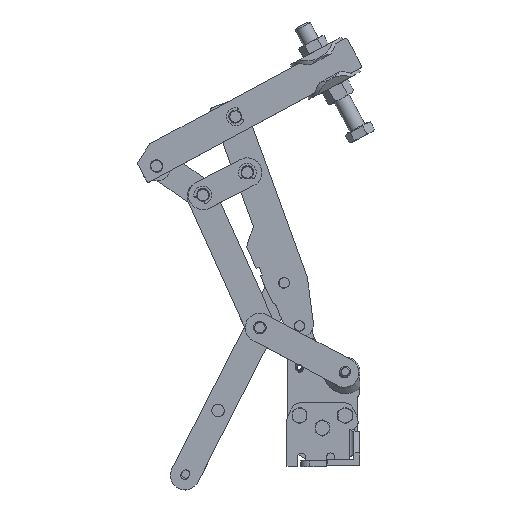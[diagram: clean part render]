
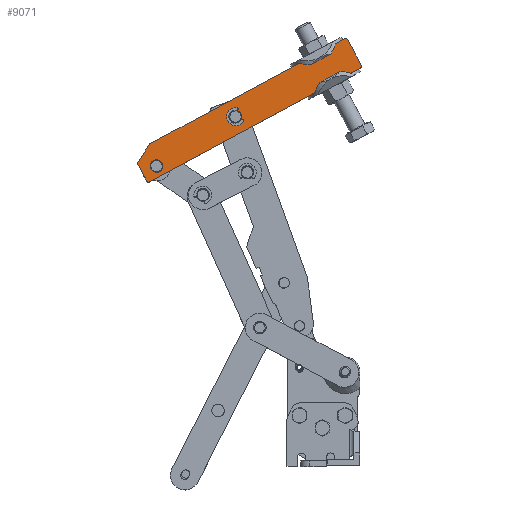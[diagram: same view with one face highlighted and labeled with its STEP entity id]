
A CAD part, top view. The second image highlights one B-rep face of the part: STEP entity #9071.
In plain terms, the highlighted planar face has unit normal (0, 0, 1).
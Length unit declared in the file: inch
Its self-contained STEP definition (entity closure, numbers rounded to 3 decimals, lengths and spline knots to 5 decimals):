
#8745=CARTESIAN_POINT('',(19.25408,10.80395,1.63783));
#8746=VERTEX_POINT('',#8745);
#8747=CARTESIAN_POINT('',(19.08905,10.71495,1.63783));
#8748=DIRECTION('',(0.0,0.0,-1.0));
#8749=DIRECTION('',(-0.88,-0.475,0.0));
#8750=AXIS2_PLACEMENT_3D('',#8747,#8748,#8749);
#8751=CIRCLE('',#8750,0.1875);
#8752=EDGE_CURVE('',#8746,#8746,#8751,.T.);
#8773=CARTESIAN_POINT('',(21.62335,12.28846,1.63783));
#8774=VERTEX_POINT('',#8773);
#8775=CARTESIAN_POINT('',(21.45832,12.19946,1.63783));
#8776=DIRECTION('',(0.0,0.0,-1.0));
#8777=DIRECTION('',(-0.88,-0.475,0.0));
#8778=AXIS2_PLACEMENT_3D('',#8775,#8776,#8777);
#8779=CIRCLE('',#8778,0.1875);
#8780=EDGE_CURVE('',#8774,#8774,#8779,.T.);
#8812=CARTESIAN_POINT('',(18.86282,11.35821,1.63783));
#8813=VERTEX_POINT('',#8812);
#8820=CARTESIAN_POINT('',(18.88654,11.38059,1.63783));
#8821=VERTEX_POINT('',#8820);
#8822=CARTESIAN_POINT('',(18.91644,11.32514,1.63783));
#8823=DIRECTION('',(0.0,0.0,-1.0));
#8824=DIRECTION('',(-0.686,0.727,0.0));
#8825=AXIS2_PLACEMENT_3D('',#8822,#8823,#8824);
#8826=CIRCLE('',#8825,0.063);
#8827=EDGE_CURVE('',#8813,#8821,#8826,.T.);
#8843=CARTESIAN_POINT('',(18.5278,10.75497,1.63783));
#8844=VERTEX_POINT('',#8843);
#8845=CARTESIAN_POINT('',(18.52963,10.81794,1.63783));
#8846=VERTEX_POINT('',#8845);
#8847=CARTESIAN_POINT('',(18.58325,10.78487,1.63783));
#8848=DIRECTION('',(0.0,0.0,-1.0));
#8849=DIRECTION('',(-1.,0.029,0.0));
#8850=AXIS2_PLACEMENT_3D('',#8847,#8848,#8849);
#8851=CIRCLE('',#8850,0.063);
#8852=EDGE_CURVE('',#8844,#8846,#8851,.T.);
#8896=CARTESIAN_POINT('',(18.87737,10.2395,1.63783));
#8897=VERTEX_POINT('',#8896);
#8904=CARTESIAN_POINT('',(18.79202,10.26505,1.63783));
#8905=VERTEX_POINT('',#8904);
#8906=CARTESIAN_POINT('',(18.84747,10.29495,1.63783));
#8907=DIRECTION('',(0.0,0.0,-1.0));
#8908=DIRECTION('',(-0.287,-0.958,0.0));
#8909=AXIS2_PLACEMENT_3D('',#8906,#8907,#8908);
#8910=CIRCLE('',#8909,0.063);
#8911=EDGE_CURVE('',#8897,#8905,#8910,.T.);
#8938=CARTESIAN_POINT('',(24.74164,14.53821,1.63783));
#8939=VERTEX_POINT('',#8938);
#8946=CARTESIAN_POINT('',(24.827,14.51266,1.63783));
#8947=VERTEX_POINT('',#8946);
#8948=CARTESIAN_POINT('',(24.77155,14.48276,1.63783));
#8949=DIRECTION('',(0.0,0.0,-1.0));
#8950=DIRECTION('',(0.287,0.958,0.0));
#8951=AXIS2_PLACEMENT_3D('',#8948,#8949,#8950);
#8952=CIRCLE('',#8951,0.063);
#8953=EDGE_CURVE('',#8939,#8947,#8952,.T.);
#8980=CARTESIAN_POINT('',(25.24185,13.7434,1.63783));
#8981=VERTEX_POINT('',#8980);
#8988=CARTESIAN_POINT('',(25.21631,13.65805,1.63783));
#8989=VERTEX_POINT('',#8988);
#8990=CARTESIAN_POINT('',(25.1864,13.7135,1.63783));
#8991=DIRECTION('',(0.0,0.0,-1.0));
#8992=DIRECTION('',(0.958,-0.287,0.0));
#8993=AXIS2_PLACEMENT_3D('',#8990,#8991,#8992);
#8994=CIRCLE('',#8993,0.063);
#8995=EDGE_CURVE('',#8981,#8989,#8994,.T.);
#9012=CARTESIAN_POINT('',(25.21631,13.65805,1.63783));
#9013=DIRECTION('',(-0.88,-0.475,0.0));
#9014=VECTOR('',#9013,7.20199);
#9015=LINE('',#9012,#9014);
#9016=EDGE_CURVE('',#8989,#8897,#9015,.T.);
#9028=CARTESIAN_POINT('',(21.80951,12.38885,1.63783));
#9029=DIRECTION('',(0.0,0.0,1.0));
#9030=DIRECTION('',(0.88,0.475,0.0));
#9031=AXIS2_PLACEMENT_3D('',#9028,#9029,#9030);
#9032=PLANE('',#9031);
#9033=ORIENTED_EDGE('',*,*,#8995,.F.);
#9034=CARTESIAN_POINT('',(24.827,14.51266,1.63783));
#9035=DIRECTION('',(0.475,-0.88,0.0));
#9036=VECTOR('',#9035,0.874);
#9037=LINE('',#9034,#9036);
#9038=EDGE_CURVE('',#8947,#8981,#9037,.T.);
#9039=ORIENTED_EDGE('',*,*,#9038,.F.);
#9040=ORIENTED_EDGE('',*,*,#8953,.F.);
#9041=CARTESIAN_POINT('',(18.88654,11.38059,1.63783));
#9042=DIRECTION('',(0.88,0.475,0.0));
#9043=VECTOR('',#9042,6.65228);
#9044=LINE('',#9041,#9043);
#9045=EDGE_CURVE('',#8821,#8939,#9044,.T.);
#9046=ORIENTED_EDGE('',*,*,#9045,.F.);
#9047=ORIENTED_EDGE('',*,*,#8827,.F.);
#9048=CARTESIAN_POINT('',(18.86282,11.35821,1.63783));
#9049=DIRECTION('',(-0.525,-0.851,0.0));
#9050=VECTOR('',#9049,0.63474);
#9051=LINE('',#9048,#9050);
#9052=EDGE_CURVE('',#8813,#8846,#9051,.T.);
#9053=ORIENTED_EDGE('',*,*,#9052,.T.);
#9054=ORIENTED_EDGE('',*,*,#8852,.F.);
#9055=CARTESIAN_POINT('',(18.79202,10.26505,1.63783));
#9056=DIRECTION('',(-0.475,0.88,0.0));
#9057=VECTOR('',#9056,0.55663);
#9058=LINE('',#9055,#9057);
#9059=EDGE_CURVE('',#8905,#8844,#9058,.T.);
#9060=ORIENTED_EDGE('',*,*,#9059,.F.);
#9061=ORIENTED_EDGE('',*,*,#8911,.F.);
#9062=ORIENTED_EDGE('',*,*,#9016,.F.);
#9063=EDGE_LOOP('',(#9033,#9039,#9040,#9046,#9047,#9053,#9054,#9060,#9061,#9062));
#9064=FACE_OUTER_BOUND('',#9063,.T.);
#9065=ORIENTED_EDGE('',*,*,#8752,.T.);
#9066=EDGE_LOOP('',(#9065));
#9067=FACE_BOUND('',#9066,.T.);
#9068=ORIENTED_EDGE('',*,*,#8780,.T.);
#9069=EDGE_LOOP('',(#9068));
#9070=FACE_BOUND('',#9069,.T.);
#9071=ADVANCED_FACE('',(#9064,#9067,#9070),#9032,.T.);
